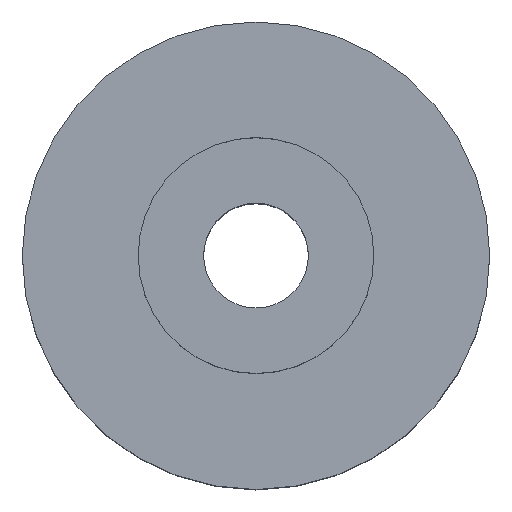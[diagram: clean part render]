
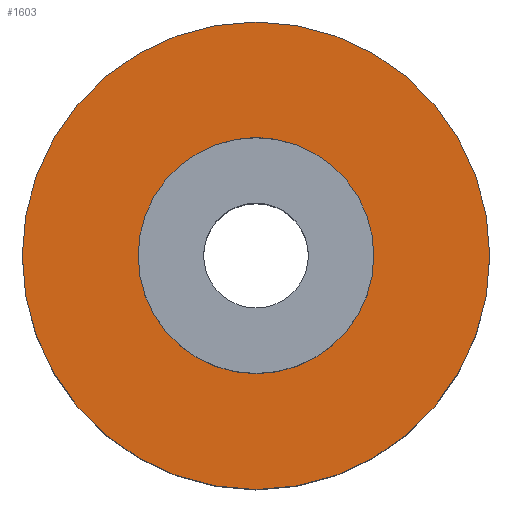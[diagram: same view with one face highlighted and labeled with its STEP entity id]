
A CAD part, top view. The second image highlights one B-rep face of the part: STEP entity #1603.
In plain terms, the highlighted planar face has unit normal (0, 0, 1).
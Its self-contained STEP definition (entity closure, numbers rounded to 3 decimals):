
#24 = VERTEX_POINT('',#25);
#25 = CARTESIAN_POINT('',(17.85,0.,20.));
#32 = CYLINDRICAL_SURFACE('',#33,17.85);
#33 = AXIS2_PLACEMENT_3D('',#34,#35,#36);
#34 = CARTESIAN_POINT('',(0.,0.,18.5));
#35 = DIRECTION('',(-0.,-0.,-1.));
#36 = DIRECTION('',(1.,0.,0.));
#51 = EDGE_CURVE('',#24,#24,#52,.T.);
#52 = SURFACE_CURVE('',#53,(#58,#65),.PCURVE_S1.);
#53 = CIRCLE('',#54,17.85);
#54 = AXIS2_PLACEMENT_3D('',#55,#56,#57);
#55 = CARTESIAN_POINT('',(0.,0.,20.));
#56 = DIRECTION('',(0.,0.,1.));
#57 = DIRECTION('',(1.,0.,0.));
#58 = PCURVE('',#32,#59);
#59 = DEFINITIONAL_REPRESENTATION('',(#60),#64);
#60 = LINE('',#61,#62);
#61 = CARTESIAN_POINT('',(-0.,-1.5));
#62 = VECTOR('',#63,1.);
#63 = DIRECTION('',(-1.,0.));
#64 = ( GEOMETRIC_REPRESENTATION_CONTEXT(2) 
PARAMETRIC_REPRESENTATION_CONTEXT() REPRESENTATION_CONTEXT('2D SPACE',''
  ) );
#65 = PCURVE('',#66,#71);
#66 = PLANE('',#67);
#67 = AXIS2_PLACEMENT_3D('',#68,#69,#70);
#68 = CARTESIAN_POINT('',(0.,0.,20.));
#69 = DIRECTION('',(0.,0.,1.));
#70 = DIRECTION('',(1.,0.,-0.));
#71 = DEFINITIONAL_REPRESENTATION('',(#72),#76);
#72 = CIRCLE('',#73,17.85);
#73 = AXIS2_PLACEMENT_2D('',#74,#75);
#74 = CARTESIAN_POINT('',(0.,0.));
#75 = DIRECTION('',(1.,0.));
#76 = ( GEOMETRIC_REPRESENTATION_CONTEXT(2) 
PARAMETRIC_REPRESENTATION_CONTEXT() REPRESENTATION_CONTEXT('2D SPACE',''
  ) );
#1603 = ADVANCED_FACE('',(#1604,#1607),#66,.T.);
#1604 = FACE_BOUND('',#1605,.T.);
#1605 = EDGE_LOOP('',(#1606));
#1606 = ORIENTED_EDGE('',*,*,#51,.T.);
#1607 = FACE_BOUND('',#1608,.T.);
#1608 = EDGE_LOOP('',(#1609));
#1609 = ORIENTED_EDGE('',*,*,#1610,.F.);
#1610 = EDGE_CURVE('',#1611,#1611,#1613,.T.);
#1611 = VERTEX_POINT('',#1612);
#1612 = CARTESIAN_POINT('',(9.,0.,20.));
#1613 = SURFACE_CURVE('',#1614,(#1619,#1626),.PCURVE_S1.);
#1614 = CIRCLE('',#1615,9.);
#1615 = AXIS2_PLACEMENT_3D('',#1616,#1617,#1618);
#1616 = CARTESIAN_POINT('',(0.,0.,20.));
#1617 = DIRECTION('',(0.,0.,1.));
#1618 = DIRECTION('',(1.,0.,0.));
#1619 = PCURVE('',#66,#1620);
#1620 = DEFINITIONAL_REPRESENTATION('',(#1621),#1625);
#1621 = CIRCLE('',#1622,9.);
#1622 = AXIS2_PLACEMENT_2D('',#1623,#1624);
#1623 = CARTESIAN_POINT('',(0.,0.));
#1624 = DIRECTION('',(1.,0.));
#1625 = ( GEOMETRIC_REPRESENTATION_CONTEXT(2) 
PARAMETRIC_REPRESENTATION_CONTEXT() REPRESENTATION_CONTEXT('2D SPACE',''
  ) );
#1626 = PCURVE('',#1627,#1632);
#1627 = CYLINDRICAL_SURFACE('',#1628,9.);
#1628 = AXIS2_PLACEMENT_3D('',#1629,#1630,#1631);
#1629 = CARTESIAN_POINT('',(0.,0.,20.));
#1630 = DIRECTION('',(-0.,-0.,-1.));
#1631 = DIRECTION('',(1.,0.,0.));
#1632 = DEFINITIONAL_REPRESENTATION('',(#1633),#1637);
#1633 = LINE('',#1634,#1635);
#1634 = CARTESIAN_POINT('',(-0.,0.));
#1635 = VECTOR('',#1636,1.);
#1636 = DIRECTION('',(-1.,0.));
#1637 = ( GEOMETRIC_REPRESENTATION_CONTEXT(2) 
PARAMETRIC_REPRESENTATION_CONTEXT() REPRESENTATION_CONTEXT('2D SPACE',''
  ) );
